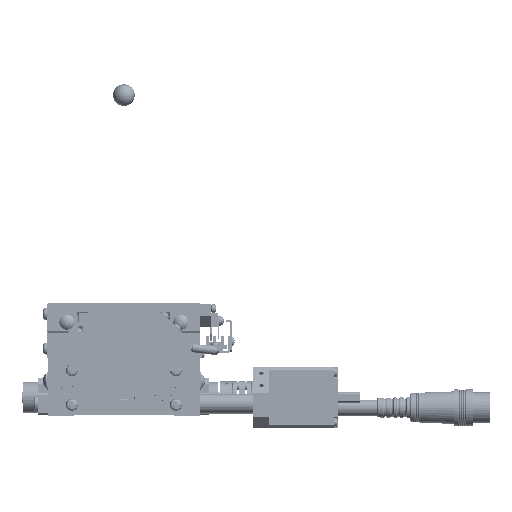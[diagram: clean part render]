
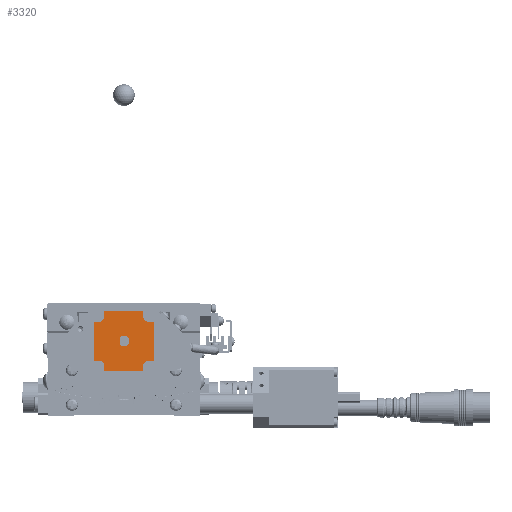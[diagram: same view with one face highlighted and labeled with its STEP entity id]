
A CAD part, front view. The second image highlights one B-rep face of the part: STEP entity #3320.
In plain terms, the highlighted planar face has unit normal (0, -1, 0).
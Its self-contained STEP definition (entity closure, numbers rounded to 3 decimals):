
#3320=ADVANCED_FACE('',(#35092,#35093),#35091,.F.);
#35091=PLANE('',#82309);
#35092=FACE_OUTER_BOUND('',#82310,.T.);
#35093=FACE_BOUND('',#82311,.T.);
#82306=CARTESIAN_POINT('',(16.8,-99.,51.3));
#82307=DIRECTION('',(0.,1.,0.));
#82308=DIRECTION('',(0.,0.,-1.));
#82309=AXIS2_PLACEMENT_3D('',#82306,#82307,#82308);
#82310=EDGE_LOOP('',(#116537,#116538,#116539,#116540,#116541,#116542,#116543,#116544,#116545,#116546,#116547,#116548,#116549,#116550,#116551,#116552));
#82311=EDGE_LOOP('',(#116553,#116554));
#116537=ORIENTED_EDGE('',*,*,#139703,.T.);
#116538=ORIENTED_EDGE('',*,*,#139704,.T.);
#116539=ORIENTED_EDGE('',*,*,#139705,.T.);
#116540=ORIENTED_EDGE('',*,*,#139691,.F.);
#116541=ORIENTED_EDGE('',*,*,#139699,.T.);
#116542=ORIENTED_EDGE('',*,*,#139701,.T.);
#116543=ORIENTED_EDGE('',*,*,#139702,.T.);
#116544=ORIENTED_EDGE('',*,*,#139636,.F.);
#116545=ORIENTED_EDGE('',*,*,#139665,.T.);
#116546=ORIENTED_EDGE('',*,*,#139668,.T.);
#116547=ORIENTED_EDGE('',*,*,#139670,.T.);
#116548=ORIENTED_EDGE('',*,*,#139659,.F.);
#116549=ORIENTED_EDGE('',*,*,#139684,.T.);
#116550=ORIENTED_EDGE('',*,*,#139686,.T.);
#116551=ORIENTED_EDGE('',*,*,#139687,.T.);
#116552=ORIENTED_EDGE('',*,*,#139674,.F.);
#116553=ORIENTED_EDGE('',*,*,#139614,.F.);
#116554=ORIENTED_EDGE('',*,*,#139706,.T.);
#139614=EDGE_CURVE('',#198803,#198810,#198811,.T.);
#139636=EDGE_CURVE('',#198949,#198956,#198957,.T.);
#139659=EDGE_CURVE('',#199099,#199106,#199107,.T.);
#139665=EDGE_CURVE('',#198949,#199139,#199146,.T.);
#139668=EDGE_CURVE('',#199139,#199159,#199166,.T.);
#139670=EDGE_CURVE('',#199159,#199106,#199178,.T.);
#139674=EDGE_CURVE('',#199199,#199206,#199207,.T.);
#139684=EDGE_CURVE('',#199099,#199266,#199273,.T.);
#139686=EDGE_CURVE('',#199266,#199279,#199286,.T.);
#139687=EDGE_CURVE('',#199279,#199206,#199292,.T.);
#139691=EDGE_CURVE('',#199312,#199319,#199320,.T.);
#139699=EDGE_CURVE('',#199312,#199366,#199373,.T.);
#139701=EDGE_CURVE('',#199366,#199379,#199386,.T.);
#139702=EDGE_CURVE('',#199379,#198956,#199392,.T.);
#139703=EDGE_CURVE('',#199199,#199398,#199399,.T.);
#139704=EDGE_CURVE('',#199398,#199405,#199406,.T.);
#139705=EDGE_CURVE('',#199405,#199319,#199412,.T.);
#139706=EDGE_CURVE('',#198803,#198810,#199418,.T.);
#198803=VERTEX_POINT('',#277400);
#198810=VERTEX_POINT('',#277404);
#198811=LINE('',#277405,#277406);
#198949=VERTEX_POINT('',#277485);
#198956=VERTEX_POINT('',#277489);
#198957=LINE('',#277490,#277491);
#199099=VERTEX_POINT('',#277571);
#199106=VERTEX_POINT('',#277575);
#199107=LINE('',#277576,#277577);
#199139=VERTEX_POINT('',#277593);
#199146=LINE('',#277597,#277598);
#199159=VERTEX_POINT('',#277605);
#199166=CIRCLE('',#277612,19.);
#199178=LINE('',#277616,#277617);
#199199=VERTEX_POINT('',#277630);
#199206=VERTEX_POINT('',#277634);
#199207=LINE('',#277635,#277636);
#199266=VERTEX_POINT('',#277670);
#199273=LINE('',#277674,#277675);
#199279=VERTEX_POINT('',#277677);
#199286=CIRCLE('',#277684,19.);
#199292=LINE('',#277685,#277686);
#199312=VERTEX_POINT('',#277696);
#199319=VERTEX_POINT('',#277700);
#199320=LINE('',#277701,#277702);
#199366=VERTEX_POINT('',#277729);
#199373=LINE('',#277733,#277734);
#199379=VERTEX_POINT('',#277736);
#199386=CIRCLE('',#277743,19.);
#199392=LINE('',#277744,#277745);
#199398=VERTEX_POINT('',#277747);
#199399=LINE('',#277748,#277749);
#199405=VERTEX_POINT('',#277751);
#199406=CIRCLE('',#277755,19.);
#199412=LINE('',#277756,#277757);
#199418=CIRCLE('',#277762,2.5);
#277400=CARTESIAN_POINT('',(-2.,-99.,36.));
#277404=CARTESIAN_POINT('',(-2.,-99.,33.));
#277405=CARTESIAN_POINT('',(-2.,-99.,36.));
#277406=VECTOR('',#277407,3.);
#277407=DIRECTION('',(0.,0.,-1.));
#277485=CARTESIAN_POINT('',(14.,-99.,43.5));
#277489=CARTESIAN_POINT('',(14.,-99.,25.5));
#277490=CARTESIAN_POINT('',(14.,-99.,43.5));
#277491=VECTOR('',#277492,18.);
#277492=DIRECTION('',(0.,0.,-1.));
#277571=CARTESIAN_POINT('',(-9.,-99.,48.5));
#277575=CARTESIAN_POINT('',(9.,-99.,48.5));
#277576=CARTESIAN_POINT('',(-9.,-99.,48.5));
#277577=VECTOR('',#277578,18.);
#277578=DIRECTION('',(1.,0.,0.));
#277593=CARTESIAN_POINT('',(10.5,-99.,43.5));
#277597=CARTESIAN_POINT('',(14.,-99.,43.5));
#277598=VECTOR('',#277599,3.5);
#277599=DIRECTION('',(-1.,0.,0.));
#277605=CARTESIAN_POINT('',(9.,-99.,45.));
#277609=CARTESIAN_POINT('',(23.164,-99.,57.664));
#277610=DIRECTION('',(0.,1.,0.));
#277611=DIRECTION('',(0.667,0.,0.745));
#277612=AXIS2_PLACEMENT_3D('',#277609,#277610,#277611);
#277616=CARTESIAN_POINT('',(9.,-99.,45.));
#277617=VECTOR('',#277618,3.5);
#277618=DIRECTION('',(0.,0.,1.));
#277630=CARTESIAN_POINT('',(-14.,-99.,25.5));
#277634=CARTESIAN_POINT('',(-14.,-99.,43.5));
#277635=CARTESIAN_POINT('',(-14.,-99.,25.5));
#277636=VECTOR('',#277637,18.);
#277637=DIRECTION('',(0.,0.,1.));
#277670=CARTESIAN_POINT('',(-9.,-99.,45.));
#277674=CARTESIAN_POINT('',(-9.,-99.,48.5));
#277675=VECTOR('',#277676,3.5);
#277676=DIRECTION('',(0.,0.,-1.));
#277677=CARTESIAN_POINT('',(-10.5,-99.,43.5));
#277681=CARTESIAN_POINT('',(-23.164,-99.,57.664));
#277682=DIRECTION('',(0.,1.,0.));
#277683=DIRECTION('',(-0.745,0.,0.667));
#277684=AXIS2_PLACEMENT_3D('',#277681,#277682,#277683);
#277685=CARTESIAN_POINT('',(-10.5,-99.,43.5));
#277686=VECTOR('',#277687,3.5);
#277687=DIRECTION('',(-1.,0.,0.));
#277696=CARTESIAN_POINT('',(9.,-99.,20.5));
#277700=CARTESIAN_POINT('',(-9.,-99.,20.5));
#277701=CARTESIAN_POINT('',(9.,-99.,20.5));
#277702=VECTOR('',#277703,18.);
#277703=DIRECTION('',(-1.,0.,0.));
#277729=CARTESIAN_POINT('',(9.,-99.,24.));
#277733=CARTESIAN_POINT('',(9.,-99.,20.5));
#277734=VECTOR('',#277735,3.5);
#277735=DIRECTION('',(0.,0.,1.));
#277736=CARTESIAN_POINT('',(10.5,-99.,25.5));
#277740=CARTESIAN_POINT('',(23.164,-99.,11.336));
#277741=DIRECTION('',(0.,1.,0.));
#277742=DIRECTION('',(0.745,0.,-0.667));
#277743=AXIS2_PLACEMENT_3D('',#277740,#277741,#277742);
#277744=CARTESIAN_POINT('',(10.5,-99.,25.5));
#277745=VECTOR('',#277746,3.5);
#277746=DIRECTION('',(1.,0.,0.));
#277747=CARTESIAN_POINT('',(-10.5,-99.,25.5));
#277748=CARTESIAN_POINT('',(-14.,-99.,25.5));
#277749=VECTOR('',#277750,3.5);
#277750=DIRECTION('',(1.,0.,0.));
#277751=CARTESIAN_POINT('',(-9.,-99.,24.));
#277752=CARTESIAN_POINT('',(-23.164,-99.,11.336));
#277753=DIRECTION('',(0.,1.,0.));
#277754=DIRECTION('',(-0.667,0.,-0.745));
#277755=AXIS2_PLACEMENT_3D('',#277752,#277753,#277754);
#277756=CARTESIAN_POINT('',(-9.,-99.,24.));
#277757=VECTOR('',#277758,3.5);
#277758=DIRECTION('',(0.,0.,-1.));
#277759=CARTESIAN_POINT('',(0.,-99.,34.5));
#277760=DIRECTION('',(0.,1.,0.));
#277761=DIRECTION('',(-1.,0.,0.));
#277762=AXIS2_PLACEMENT_3D('',#277759,#277760,#277761);
